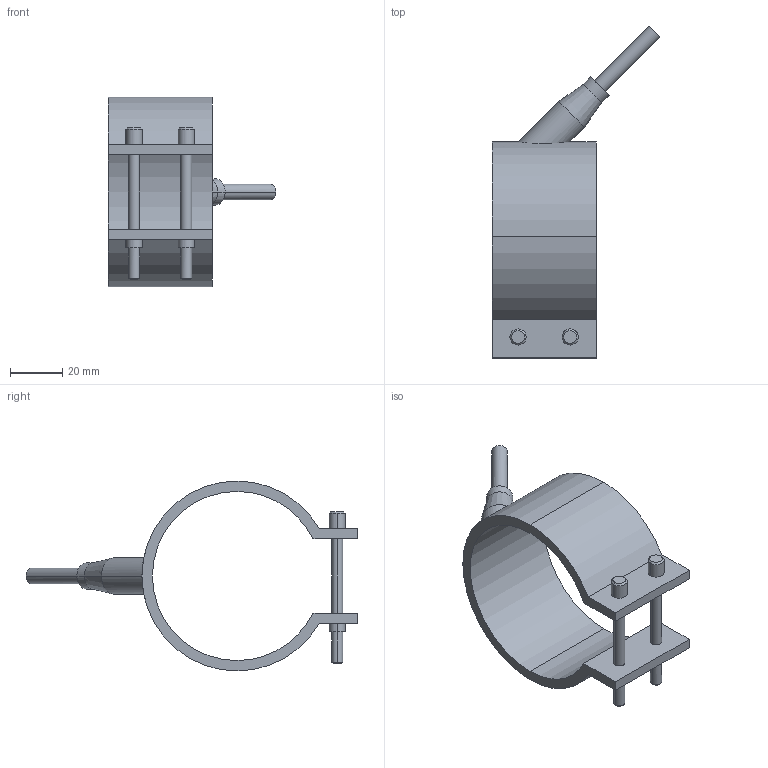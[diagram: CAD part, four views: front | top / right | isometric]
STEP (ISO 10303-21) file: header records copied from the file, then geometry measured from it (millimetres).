
FILE_DESCRIPTION(('CATIA V5 STEP Exchange'),'2;1');
FILE_NAME('C:\Users\Utente\Desktop\IO LAVORO\3D X SITO CF\X SITO\PLASTICA\RF1\29065040.stp','2021-03-27T09:47:18+00:00',('none'),('none'),'CATIA Version 5 Release 20 GA (IN-10)','CATIA V5 STEP AP203','none');
FILE_SCHEMA(('CONFIG_CONTROL_DESIGN'));
Length unit declared in the file: millimetre
Products named in the file (1): 29065040
Bounding box: 64.55 x 127.55 x 73 mm (x, y, z)
Volume: 40981.3 mm3; surface area: 22309.6 mm2
Topology: 1 solids, 1 shells, 54 faces, 126 edges, 82 vertices
Faces by surface type: cylinder 28, plane 16, cone 10
Entity records: 1758 total; most frequent: CARTESIAN_POINT 513, ORIENTED_EDGE 252, DIRECTION 212, EDGE_CURVE 126, AXIS2_PLACEMENT_3D 105, VERTEX_POINT 82, EDGE_LOOP 66, VECTOR 56
